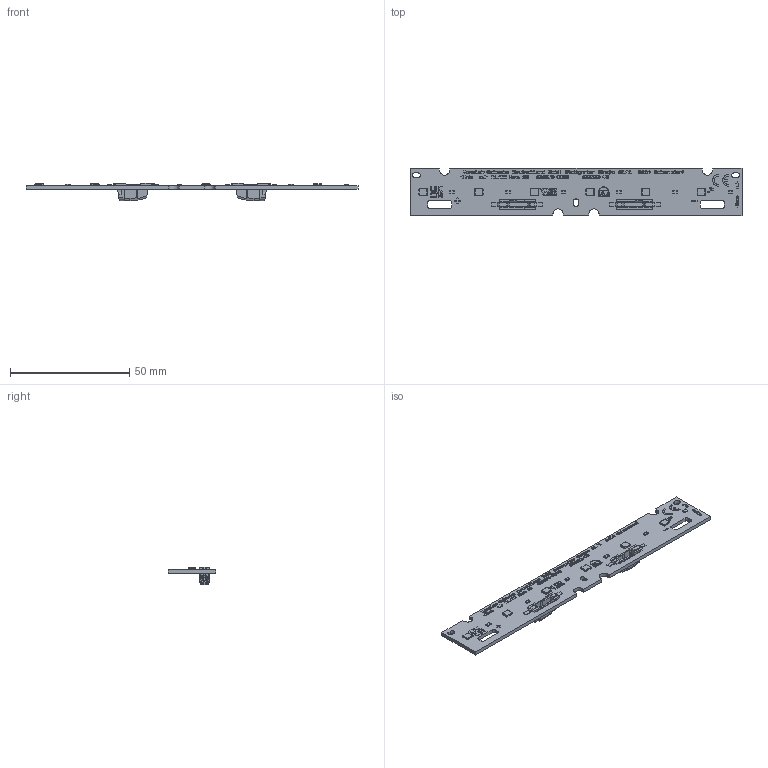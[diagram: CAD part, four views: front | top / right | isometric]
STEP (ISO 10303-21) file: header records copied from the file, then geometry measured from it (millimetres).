
FILE_DESCRIPTION(('Creo Elements/Direct Modeling STEP Export'),'2;1');
FILE_NAME('3D-Model__MLC_SC_W2_140_BTS_6R_yzz_G3 (WU-M-731-R).stp','2025-04-29T 9:40:18',(''),(''),'PTC Creo Elements/Direct Modeling STEP processor for AP214 (Solid Model)','PTC Creo Elements/Direct Modeling 19.0E 27-Jun-2016 (C) Parametric Technology GmbH','');
FILE_SCHEMA(('AUTOMOTIVE_DESIGN { 1 0 10303 214 1 1 1 1 }'));
Length unit declared in the file: millimetre
Products named in the file (147): p1.1; p1; Print.113; Print.114; Print.108; Print.111; Print.109; Print.112; Print.105; Print.107; Print.115; Print.106; Print.110; Print.83; Print.89; Print.85; Print.90; Print.86; Print.93; Print.84; Print.87; Print.91; Print.92; Print.88; Print.1; Print; Print.2; Print.4; Print.3; Print.5; Print.6; Print.7; Print.26; Print.19; Print.21; Print.25; Print.23; Print.28; Print.24; Print.27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
Assembly tree (144 placements, depth 2):
  p1.1
  p1
  Plate-Print
    Print.65
    Print.67
    Print.68
    Print.64
    Print.69
    Print.71
    Print.63
    Print.70
    Print.62
    Print.66
    Print.61
    Print.36
    Print.33
    Print.49
    Print.38
    Print.37
    Print.34
    Print.30
    Print.31
    Print.32
    Print.35
    Print.124
    Print.118
    Print.119
    Print.122
    Print.121
    Print.125
    Print.116
    Print.120
    Print.117
    Print.126
    Print.123
    Print.51
    Print.60
    Print.55
    Print.58
    Print.56
    Print.54
    Print.52
    Print.57
    Print.50
    Print.59
    Print.53
    Print.44
    Print.41
    Print.39
    Print.42
    Print.46
    Print.43
    Print.40
    Print.48
    Print.45
    Print.47
    Print.104
    Print.98
    Print.99
    Print.96
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Bounding box: 139 x 20 x 7.4 mm (x, y, z)
Volume: 4428.6 mm3; surface area: 7476.3 mm2
Topology: 145 solids, 145 shells, 3922 faces, 10840 edges, 7206 vertices
Faces by surface type: plane 2941, cylinder 969, cone 8, bspline 4
Entity records: 140742 total; most frequent: CARTESIAN_POINT 19962, ORIENTED_EDGE 18880, DIRECTION 18348, EDGE_CURVE 9440, VECTOR 7608, LINE 7608, VERTEX_POINT 6286, AXIS2_PLACEMENT_3D 5370
